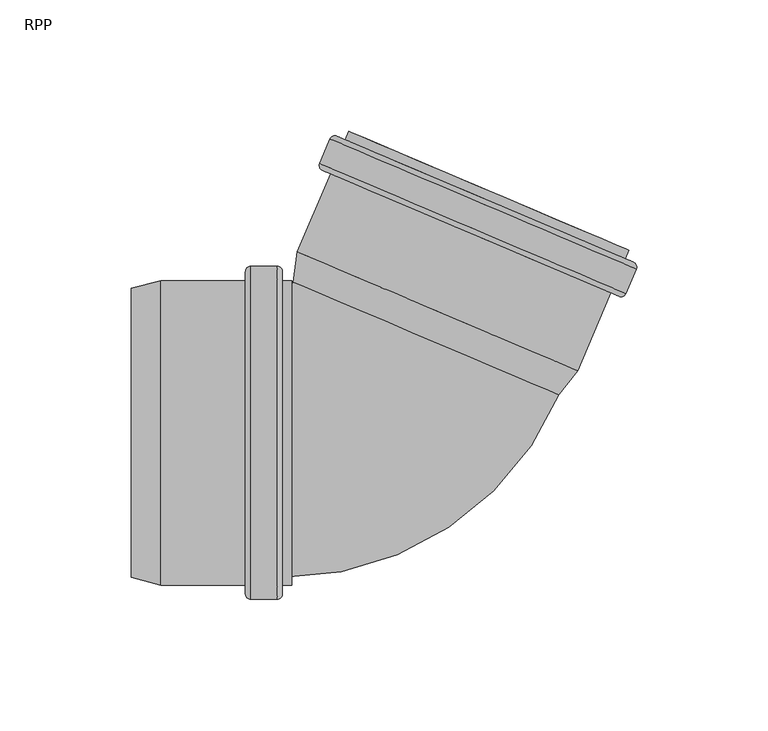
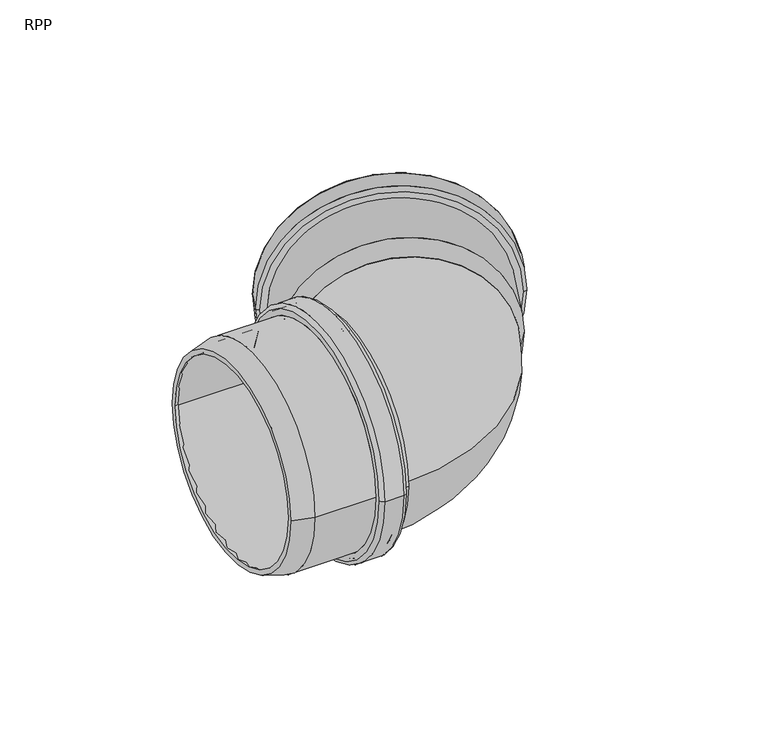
"""IFC4 building model written with IfcOpenShell, lengths in millimetres: pipe fitting geometry, RAUPIANO PLUS Bend : RPP."""

from ifc_helpers import new_model, si_unit, point, frame, origin, place, context, project, spatial, polyline, circle_curve, ellipse_curve, trimmed, source, transform, mapped, element, save
from ifc_brep_helpers import plane_surface, cylinder_surface, revolved_surface, advanced_brep


def rpp_37d01bf3(model_context):
    return source(origin(), model_context, "Body", "AdvancedBrep", [
        advanced_brep(
        [(-50.8512481, -55.3, 0.0), (-50.8512481, 55.3, 0.0), (-85.4996339, 55.3, 0.0), (-85.4996339, -55.3, 0.0), (-50.3512481, -60.7, 0.0), (-50.3512481, 60.7, 0.0), (-50.8512481, 60.2, 0.0), (-50.8512481, -60.2, 0.0), (-42.6512481, -60.7, 0.0), (-42.6512481, 60.7, 0.0), (-42.1512481, -60.2, 0.0), (-42.1512481, 60.2, 0.0), (-35.9512481, -55.3, 0.0), (-35.9512481, 55.3, 0.0), (-42.1512481, 55.3, 0.0), (-42.1512481, -55.3, 0.0), (-39.4512481, -58.0, 0.0), (-39.4512481, 58.0, 0.0), (-35.9512481, 58.0, 0.0), (-35.9512481, -58.0, 0.0), (-41.4512481, -63.4, 0.0), (-41.4512481, 63.4, 0.0), (-39.4512481, 61.4, 0.0), (-39.4512481, -61.4, 0.0), (-51.5512481, -63.4, 0.0), (-51.5512481, 63.4, 0.0), (-53.5512481, -61.4, 0.0), (-53.5512481, 61.4, 0.0), (-85.8550957, -58.0, 0.0), (-85.8550957, 58.0, 0.0), (-53.5512481, 58.0, 0.0), (-53.5512481, -58.0, 0.0), (-97.0512481, -55.0, 0.0), (-97.0512481, 55.0, 0.0), (-97.0512481, 52.2047543, 0.0), (-97.0512481, -52.2047543, 0.0)],
        [
            (0, 1, circle_curve(frame((-50.8512481, 0.0, 0.0), z_axis=(1.0, 0.0, 0.0), x_axis=(0.0, 1.0, 0.0)), 55.3)),
            (1, 2),
            (2, 3, circle_curve(frame((-85.4996339, 0.0, 0.0), z_axis=(-1.0, 0.0, 0.0), x_axis=(0.0, 1.0, 0.0)), 55.3)),
            (3, 0),
            (4, 5, circle_curve(frame((-50.3512481, 0.0, 0.0), z_axis=(1.0, 0.0, 0.0), x_axis=(0.0, 1.0, 0.0)), 60.7)),
            (5, 6, circle_curve(frame((-50.3512481, 60.2, 0.0), z_axis=(0.0, 0.0, 1.0), x_axis=(0.0, -1.0, 0.0)), 0.5)),
            (6, 7, circle_curve(frame((-50.8512481, 0.0, 0.0), z_axis=(-1.0, 0.0, 0.0), x_axis=(0.0, 1.0, 0.0)), 60.2)),
            (7, 4, circle_curve(frame((-50.3512481, -60.2, 0.0), z_axis=(0.0, 0.0, 1.0), x_axis=(0.0, 1.0, 0.0)), 0.5)),
            (8, 9, circle_curve(frame((-42.6512481, 0.0, 0.0), z_axis=(1.0, 0.0, 0.0), x_axis=(0.0, 1.0, 0.0)), 60.7)),
            (9, 5),
            (4, 8),
            (10, 11, circle_curve(frame((-42.1512481, 0.0, 0.0), z_axis=(1.0, 0.0, 0.0), x_axis=(0.0, 1.0, 0.0)), 60.2)),
            (11, 9, circle_curve(frame((-42.6512481, 60.2, 0.0), z_axis=(0.0, 0.0, 1.0), x_axis=(0.0, -1.0, 0.0)), 0.5)),
            (8, 10, circle_curve(frame((-42.6512481, -60.2, 0.0), z_axis=(0.0, 0.0, 1.0), x_axis=(0.0, 1.0, 0.0)), 0.5)),
            (12, 13, circle_curve(frame((-35.9512481, 0.0, 0.0), z_axis=(1.0, 0.0, 0.0), x_axis=(0.0, 1.0, 0.0)), 55.3)),
            (13, 14),
            (14, 15, circle_curve(frame((-42.1512481, 0.0, 0.0), z_axis=(-1.0, 0.0, 0.0), x_axis=(0.0, 1.0, 0.0)), 55.3)),
            (15, 12),
            (16, 17, circle_curve(frame((-39.4512481, 0.0, 0.0), z_axis=(1.0, 0.0, 0.0), x_axis=(0.0, 1.0, 0.0)), 58.0)),
            (17, 18),
            (18, 19, circle_curve(frame((-35.9512481, 0.0, 0.0), z_axis=(-1.0, 0.0, 0.0), x_axis=(0.0, 1.0, 0.0)), 58.0)),
            (19, 16),
            (20, 21, circle_curve(frame((-41.4512481, 0.0, 0.0), z_axis=(1.0, 0.0, 0.0), x_axis=(0.0, 1.0, 0.0)), 63.4)),
            (21, 22, circle_curve(frame((-41.4512481, 61.4, 0.0), z_axis=(0.0, 0.0, -1.0), x_axis=(0.0, -1.0, 0.0)), 2.0)),
            (22, 23, circle_curve(frame((-39.4512481, 0.0, 0.0), z_axis=(-1.0, 0.0, 0.0), x_axis=(0.0, 1.0, 0.0)), 61.4)),
            (23, 20, circle_curve(frame((-41.4512481, -61.4, 0.0), z_axis=(0.0, 0.0, -1.0), x_axis=(0.0, 1.0, 0.0)), 2.0)),
            (24, 25, circle_curve(frame((-51.5512481, 0.0, 0.0), z_axis=(1.0, 0.0, 0.0), x_axis=(0.0, 1.0, 0.0)), 63.4)),
            (25, 21),
            (20, 24),
            (26, 27, circle_curve(frame((-53.5512481, 0.0, 0.0), z_axis=(1.0, 0.0, 0.0), x_axis=(0.0, 1.0, 0.0)), 61.4)),
            (27, 25, circle_curve(frame((-51.5512481, 61.4, 0.0), z_axis=(0.0, 0.0, -1.0), x_axis=(0.0, -1.0, 0.0)), 2.0)),
            (24, 26, circle_curve(frame((-51.5512481, -61.4, 0.0), z_axis=(0.0, 0.0, -1.0), x_axis=(0.0, 1.0, 0.0)), 2.0)),
            (28, 29, circle_curve(frame((-85.8550957, 0.0, 0.0), z_axis=(1.0, 0.0, 0.0), x_axis=(0.0, 1.0, 0.0)), 58.0)),
            (29, 30),
            (30, 31, circle_curve(frame((-53.5512481, 0.0, 0.0), z_axis=(-1.0, 0.0, 0.0), x_axis=(0.0, 1.0, 0.0)), 58.0)),
            (31, 28),
            (32, 33, circle_curve(frame((-97.0512481, 0.0, 0.0), z_axis=(1.0, 0.0, 0.0), x_axis=(0.0, 1.0, 0.0)), 55.0)),
            (33, 29),
            (28, 32),
            (2, 34),
            (34, 35, circle_curve(frame((-97.0512481, 0.0, 0.0), z_axis=(-1.0, 0.0, 0.0), x_axis=(0.0, 1.0, 0.0)), 52.2047543)),
            (35, 3),
            (1, 0, circle_curve(frame((-50.8512481, 0.0, 0.0), z_axis=(1.0, 0.0, 0.0), x_axis=(0.0, -1.0, 0.0)), 55.3)),
            (3, 2, circle_curve(frame((-85.4996339, 0.0, 0.0), z_axis=(-1.0, 0.0, 0.0), x_axis=(0.0, -1.0, 0.0)), 55.3)),
            (6, 7, circle_curve(frame((-50.8512481, 0.0, 0.0), z_axis=(1.0, 0.0, 0.0), x_axis=(0.0, -1.0, 0.0)), 60.2)),
            (5, 4, circle_curve(frame((-50.3512481, 0.0, 0.0), z_axis=(1.0, 0.0, 0.0), x_axis=(0.0, -1.0, 0.0)), 60.7)),
            (9, 8, circle_curve(frame((-42.6512481, 0.0, 0.0), z_axis=(1.0, 0.0, 0.0), x_axis=(0.0, -1.0, 0.0)), 60.7)),
            (11, 10, circle_curve(frame((-42.1512481, 0.0, 0.0), z_axis=(1.0, 0.0, 0.0), x_axis=(0.0, -1.0, 0.0)), 60.2)),
            (14, 15, circle_curve(frame((-42.1512481, 0.0, 0.0), z_axis=(1.0, 0.0, 0.0), x_axis=(0.0, -1.0, 0.0)), 55.3)),
            (13, 12, circle_curve(frame((-35.9512481, 0.0, 0.0), z_axis=(1.0, 0.0, 0.0), x_axis=(0.0, -1.0, 0.0)), 55.3)),
            (18, 19, circle_curve(frame((-35.9512481, 0.0, 0.0), z_axis=(1.0, 0.0, 0.0), x_axis=(0.0, -1.0, 0.0)), 58.0)),
            (17, 16, circle_curve(frame((-39.4512481, 0.0, 0.0), z_axis=(1.0, 0.0, 0.0), x_axis=(0.0, -1.0, 0.0)), 58.0)),
            (22, 23, circle_curve(frame((-39.4512481, 0.0, 0.0), z_axis=(1.0, 0.0, 0.0), x_axis=(0.0, -1.0, 0.0)), 61.4)),
            (21, 20, circle_curve(frame((-41.4512481, 0.0, 0.0), z_axis=(1.0, 0.0, 0.0), x_axis=(0.0, -1.0, 0.0)), 63.4)),
            (25, 24, circle_curve(frame((-51.5512481, 0.0, 0.0), z_axis=(1.0, 0.0, 0.0), x_axis=(0.0, -1.0, 0.0)), 63.4)),
            (27, 26, circle_curve(frame((-53.5512481, 0.0, 0.0), z_axis=(1.0, 0.0, 0.0), x_axis=(0.0, -1.0, 0.0)), 61.4)),
            (30, 31, circle_curve(frame((-53.5512481, 0.0, 0.0), z_axis=(1.0, 0.0, 0.0), x_axis=(0.0, -1.0, 0.0)), 58.0)),
            (29, 28, circle_curve(frame((-85.8550957, 0.0, 0.0), z_axis=(1.0, 0.0, 0.0), x_axis=(0.0, -1.0, 0.0)), 58.0)),
            (33, 32, circle_curve(frame((-97.0512481, 0.0, 0.0), z_axis=(1.0, 0.0, 0.0), x_axis=(0.0, -1.0, 0.0)), 55.0)),
            (34, 35, circle_curve(frame((-97.0512481, 0.0, 0.0), z_axis=(1.0, 0.0, 0.0), x_axis=(0.0, -1.0, 0.0)), 52.2047543)),
        ],
        [
            revolved_surface(polyline([(-85.4996339, 55.3, 0.0), (-50.8512481, 55.3, 0.0)]), (-97.0512481, 0.0, 0.0), (-1.0, 0.0, 0.0)),
            revolved_surface(trimmed(ellipse_curve(frame((-50.3512481, 60.2, 0.0), z_axis=(0.0, 0.0, -1.0), x_axis=(0.0, -1.0, 0.0)), 0.5, 0.5), [point((-50.8512481, 60.2, 0.0))], [point((-50.3512481, 60.7, 0.0))], True, "CARTESIAN"), (-97.0512481, 0.0, 0.0), (-1.0, 0.0, 0.0)),
            revolved_surface(polyline([(-50.3512481, 60.7, 0.0), (-42.6512481, 60.7, 0.0)]), (-97.0512481, 0.0, 0.0), (-1.0, 0.0, 0.0)),
            revolved_surface(trimmed(ellipse_curve(frame((-42.6512481, 60.2, 0.0), z_axis=(0.0, 0.0, -1.0), x_axis=(0.0, -1.0, 0.0)), 0.5, 0.5), [point((-42.6512481, 60.7, 0.0))], [point((-42.1512481, 60.2, 0.0))], True, "CARTESIAN"), (-97.0512481, 0.0, 0.0), (-1.0, 0.0, 0.0)),
            revolved_surface(polyline([(-42.1512481, 55.3, 0.0), (-35.9512481, 55.3, 0.0)]), (-97.0512481, 0.0, 0.0), (-1.0, 0.0, 0.0)),
            cylinder_surface(frame((-97.0512481, 0.0, 0.0), z_axis=(-1.0, 0.0, 0.0), x_axis=(0.0, 1.0, 0.0)), 58.0),
            revolved_surface(trimmed(ellipse_curve(frame((-41.4512481, 61.4, 0.0), z_axis=(0.0, 0.0, 1.0), x_axis=(0.0, -1.0, 0.0)), 2.0, 2.0), [point((-39.4512481, 61.4, 0.0))], [point((-41.4512481, 63.4, 0.0))], True, "CARTESIAN"), (-97.0512481, 0.0, 0.0), (-1.0, 0.0, 0.0)),
            cylinder_surface(frame((-97.0512481, 0.0, 0.0), z_axis=(-1.0, 0.0, 0.0), x_axis=(0.0, 1.0, 0.0)), 63.4),
            revolved_surface(trimmed(ellipse_curve(frame((-51.5512481, 61.4, 0.0), z_axis=(0.0, 0.0, 1.0), x_axis=(0.0, -1.0, 0.0)), 2.0, 2.0), [point((-51.5512481, 63.4, 0.0))], [point((-53.5512481, 61.4, 0.0))], True, "CARTESIAN"), (-97.0512481, 0.0, 0.0), (-1.0, 0.0, 0.0)),
            revolved_surface(polyline([(-85.8550957, 58.0, 0.0), (-97.0512481, 55.0, 0.0)]), (-97.0512481, 0.0, 0.0), (-1.0, 0.0, 0.0)),
            revolved_surface(polyline([(-97.0512481, 52.2047543, 0.0), (-85.4996339, 55.3, 0.0)]), (-97.0512481, 0.0, 0.0), (-1.0, 0.0, 0.0)),
            revolved_surface(polyline([(-85.4996339, -55.3, 0.0), (-50.8512481, -55.3, 0.0)]), (-97.0512481, 0.0, 0.0), (-1.0, 0.0, 0.0)),
            plane_surface(frame((-50.8512481, 0.0, 0.0), z_axis=(1.0, 0.0, 0.0), x_axis=(0.0, -1.0, 0.0))),
            revolved_surface(trimmed(ellipse_curve(frame((-50.3512481, -60.2, 0.0), z_axis=(0.0, 0.0, 1.0), x_axis=(0.0, 1.0, 0.0)), 0.5, 0.5), [point((-50.8512481, -60.2, 0.0))], [point((-50.3512481, -60.7, 0.0))], True, "CARTESIAN"), (-97.0512481, 0.0, 0.0), (-1.0, 0.0, 0.0)),
            revolved_surface(polyline([(-50.3512481, -60.7, 0.0), (-42.6512481, -60.7, 0.0)]), (-97.0512481, 0.0, 0.0), (-1.0, 0.0, 0.0)),
            revolved_surface(trimmed(ellipse_curve(frame((-42.6512481, -60.2, 0.0), z_axis=(0.0, 0.0, 1.0), x_axis=(0.0, 1.0, 0.0)), 0.5, 0.5), [point((-42.6512481, -60.7, 0.0))], [point((-42.1512481, -60.2, 0.0))], True, "CARTESIAN"), (-97.0512481, 0.0, 0.0), (-1.0, 0.0, 0.0)),
            plane_surface(frame((-42.1512481, 0.0, 0.0), z_axis=(-1.0, 0.0, 0.0), x_axis=(0.0, -1.0, 0.0))),
            revolved_surface(polyline([(-42.1512481, -55.3, 0.0), (-35.9512481, -55.3, 0.0)]), (-97.0512481, 0.0, 0.0), (-1.0, 0.0, 0.0)),
            plane_surface(frame((-35.9512481, 0.0, 0.0), z_axis=(1.0, 0.0, 0.0), x_axis=(0.0, -1.0, 0.0))),
            cylinder_surface(frame((-97.0512481, 0.0, 0.0), z_axis=(-1.0, 0.0, 0.0), x_axis=(0.0, -1.0, 0.0)), 58.0),
            plane_surface(frame((-39.4512481, 0.0, 0.0), z_axis=(1.0, 0.0, 0.0), x_axis=(0.0, -1.0, 0.0))),
            revolved_surface(trimmed(ellipse_curve(frame((-41.4512481, -61.4, 0.0), z_axis=(0.0, 0.0, -1.0), x_axis=(0.0, 1.0, 0.0)), 2.0, 2.0), [point((-39.4512481, -61.4, 0.0))], [point((-41.4512481, -63.4, 0.0))], True, "CARTESIAN"), (-97.0512481, 0.0, 0.0), (-1.0, 0.0, 0.0)),
            cylinder_surface(frame((-97.0512481, 0.0, 0.0), z_axis=(-1.0, 0.0, 0.0), x_axis=(0.0, -1.0, 0.0)), 63.4),
            revolved_surface(trimmed(ellipse_curve(frame((-51.5512481, -61.4, 0.0), z_axis=(0.0, 0.0, -1.0), x_axis=(0.0, 1.0, 0.0)), 2.0, 2.0), [point((-51.5512481, -63.4, 0.0))], [point((-53.5512481, -61.4, 0.0))], True, "CARTESIAN"), (-97.0512481, 0.0, 0.0), (-1.0, 0.0, 0.0)),
            plane_surface(frame((-53.5512481, 0.0, 0.0), z_axis=(-1.0, 0.0, 0.0), x_axis=(0.0, -1.0, 0.0))),
            revolved_surface(polyline([(-85.8550957, -58.0, 0.0), (-97.0512481, -55.0, 0.0)]), (-97.0512481, 0.0, 0.0), (-1.0, 0.0, 0.0)),
            plane_surface(frame((-97.0512481, 0.0, 0.0), z_axis=(-1.0, 0.0, 0.0), x_axis=(0.0, -1.0, 0.0))),
            revolved_surface(polyline([(-97.0512481, -52.2047543, 0.0), (-85.4996339, -55.3, 0.0)]), (-97.0512481, 0.0, 0.0), (-1.0, 0.0, 0.0)),
        ],
        [
            (0, [[1, 2, 3, 4]]),
            (1, [[5, 6, 7, 8]]),
            (2, [[9, 10, -5, 11]]),
            (3, [[12, 13, -9, 14]]),
            (4, [[15, 16, 17, 18]]),
            (5, [[19, 20, 21, 22]]),
            (6, [[23, 24, 25, 26]]),
            (7, [[27, 28, -23, 29]]),
            (8, [[30, 31, -27, 32]]),
            (5, [[33, 34, 35, 36]]),
            (9, [[37, 38, -33, 39]]),
            (10, [[-3, 40, 41, 42]]),
            (11, [[43, -4, 44, -2]]),
            (12, [[45, -7], [-43, -1]]),
            (13, [[46, -8, -45, -6]]),
            (14, [[47, -11, -46, -10]]),
            (15, [[48, -14, -47, -13]]),
            (16, [[-48, -12], [49, -17]]),
            (17, [[50, -18, -49, -16]]),
            (18, [[51, -21], [-50, -15]]),
            (19, [[52, -22, -51, -20]]),
            (20, [[53, -25], [-52, -19]]),
            (21, [[54, -26, -53, -24]]),
            (22, [[55, -29, -54, -28]]),
            (23, [[56, -32, -55, -31]]),
            (24, [[-56, -30], [57, -35]]),
            (19, [[58, -36, -57, -34]]),
            (25, [[59, -39, -58, -38]]),
            (26, [[-59, -37], [60, -41]]),
            (27, [[-44, -42, -60, -40]]),
        ],
    ),
        advanced_brep(
        [(63.313268, 15.5488409, 0.0), (-32.7961915, 56.344886, 0.0), (-31.1318049, 68.1876117, 0.0), (70.6760319, 24.9727489, 0.0), (73.022505, 23.5905706, 0.0), (-33.756058, 68.9153815, 0.0), (-35.3692287, 57.4370755, 0.0), (65.8863052, 14.4566514, 0.0), (85.6446238, 53.3264191, 0.0), (-21.1339392, 98.65123, 0.0), (95.3431967, 62.3545797, 0.0), (-21.3768187, 111.8992868, 0.0), (-25.3232031, 102.6021878, 0.0), (91.3968123, 53.0574807, 0.0), (92.5214917, 69.5273045, 0.0), (-14.2570713, 114.8521154, 0.0), (-15.6246303, 111.6303484, 0.0), (91.1539327, 66.3055375, 0.0), (87.6135956, 64.8751485, 0.0), (-14.1942412, 108.0900113, 0.0), (-11.7717082, 113.7971414, 0.0), (90.0361286, 70.5822786, 0.0), (89.3803265, 55.2170606, 0.0), (-22.3689627, 102.6518196, 0.0), (-19.360333, 109.7397069, 0.0), (92.3889562, 62.3049479, 0.0), (-17.593602, 100.0816191, 0.0), (84.2142348, 56.8667562, 0.0), (-24.2636557, 99.9797158, 0.0), (88.7743403, 51.9979333, 0.0), (94.2836492, 64.9770517, 0.0), (-18.7543468, 112.9588343, 0.0), (-18.704715, 110.0045938, 0.0), (92.1240694, 62.9605659, 0.0), (88.7247086, 54.9521737, 0.0), (-22.1040758, 101.9962016, 0.0)],
        [
            (0, 1, circle_curve(frame((15.2585382, 35.9468634, 0.0), z_axis=(-0.39073112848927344, -0.9205048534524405, 0.0), x_axis=(-0.9205048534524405, 0.39073112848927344, 0.0)), 52.2047543)),
            (1, 2),
            (2, 3, circle_curve(frame((19.7721135, 46.5801803, 0.0), z_axis=(0.39073112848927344, 0.9205048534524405, 0.0), x_axis=(-0.9205048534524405, 0.39073112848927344, 0.0)), 55.3)),
            (3, 0),
            (4, 5, circle_curve(frame((19.6332235, 46.2529761, 0.0), z_axis=(-0.39073112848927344, -0.9205048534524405, 0.0), x_axis=(-0.9205048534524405, 0.39073112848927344, 0.0)), 58.0)),
            (5, 6),
            (6, 7, circle_curve(frame((15.2585382, 35.9468634, 0.0), z_axis=(0.39073112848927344, 0.9205048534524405, 0.0), x_axis=(-0.9205048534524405, 0.39073112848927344, 0.0)), 55.0)),
            (7, 4),
            (8, 9, circle_curve(frame((32.2553423, 75.9888245, 0.0), z_axis=(-0.39073112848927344, -0.9205048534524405, 0.0), x_axis=(-0.9205048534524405, 0.39073112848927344, 0.0)), 58.0)),
            (9, 5),
            (4, 8),
            (10, 11, circle_curve(frame((36.983189, 87.1269333, 0.0), z_axis=(-0.39073112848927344, -0.9205048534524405, 0.0), x_axis=(-0.9205048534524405, 0.39073112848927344, 0.0)), 63.4)),
            (11, 12),
            (12, 13, circle_curve(frame((33.0368046, 77.8298343, 0.0), z_axis=(0.39073112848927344, 0.9205048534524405, 0.0), x_axis=(-0.9205048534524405, 0.39073112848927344, 0.0)), 63.4)),
            (13, 10),
            (14, 15, circle_curve(frame((39.1322102, 92.18971, 0.0), z_axis=(-0.39073112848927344, -0.9205048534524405, 0.0), x_axis=(-0.9205048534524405, 0.39073112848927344, 0.0)), 58.0)),
            (15, 16),
            (16, 17, circle_curve(frame((37.7646512, 88.967943, 0.0), z_axis=(0.39073112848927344, 0.9205048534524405, 0.0), x_axis=(-0.9205048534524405, 0.39073112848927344, 0.0)), 58.0)),
            (17, 14),
            (18, 19, circle_curve(frame((36.7096772, 86.4825799, 0.0), z_axis=(-0.39073112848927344, -0.9205048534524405, 0.0), x_axis=(-0.9205048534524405, 0.39073112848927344, 0.0)), 55.3)),
            (19, 20),
            (20, 21, circle_curve(frame((39.1322102, 92.18971, 0.0), z_axis=(0.39073112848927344, 0.9205048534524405, 0.0), x_axis=(-0.9205048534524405, 0.39073112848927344, 0.0)), 55.3)),
            (21, 18),
            (22, 23, circle_curve(frame((33.5056819, 78.9344401, 0.0), z_axis=(-0.39073112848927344, -0.9205048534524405, 0.0), x_axis=(-0.9205048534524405, 0.39073112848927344, 0.0)), 60.7)),
            (23, 24),
            (24, 25, circle_curve(frame((36.5143116, 86.0223274, 0.0), z_axis=(0.39073112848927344, 0.9205048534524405, 0.0), x_axis=(-0.9205048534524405, 0.39073112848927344, 0.0)), 60.7)),
            (25, 22),
            (2, 26),
            (26, 27, circle_curve(frame((33.3103164, 78.4741876, 0.0), z_axis=(0.39073112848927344, 0.9205048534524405, 0.0), x_axis=(-0.9205048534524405, 0.39073112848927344, 0.0)), 55.3)),
            (27, 3),
            (1, 0, circle_curve(frame((15.2585382, 35.9468634, 0.0), z_axis=(-0.39073112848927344, -0.9205048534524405, 0.0), x_axis=(0.9205048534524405, -0.39073112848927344, 0.0)), 52.2047543)),
            (3, 2, circle_curve(frame((19.7721135, 46.5801803, 0.0), z_axis=(0.39073112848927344, 0.9205048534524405, 0.0), x_axis=(0.9205048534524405, -0.39073112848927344, 0.0)), 55.3)),
            (6, 7, circle_curve(frame((15.2585382, 35.9468634, 0.0), z_axis=(-0.39073112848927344, -0.9205048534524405, 0.0), x_axis=(0.9205048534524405, -0.39073112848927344, 0.0)), 55.0)),
            (5, 4, circle_curve(frame((19.6332235, 46.2529761, 0.0), z_axis=(-0.39073112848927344, -0.9205048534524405, 0.0), x_axis=(0.9205048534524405, -0.39073112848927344, 0.0)), 58.0)),
            (9, 8, circle_curve(frame((32.2553423, 75.9888245, 0.0), z_axis=(-0.39073112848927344, -0.9205048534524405, 0.0), x_axis=(0.9205048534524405, -0.39073112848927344, 0.0)), 58.0)),
            (28, 29, circle_curve(frame((32.2553423, 75.9888245, 0.0), z_axis=(-0.39073112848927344, -0.9205048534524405, 0.0), x_axis=(0.9205048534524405, -0.39073112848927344, 0.0)), 61.4)),
            (29, 28, circle_curve(frame((32.2553423, 75.9888245, 0.0), z_axis=(-0.39073112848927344, -0.9205048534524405, 0.0), x_axis=(-0.9205048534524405, 0.39073112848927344, 0.0)), 61.4)),
            (11, 10, circle_curve(frame((36.983189, 87.1269333, 0.0), z_axis=(-0.39073112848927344, -0.9205048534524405, 0.0), x_axis=(0.9205048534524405, -0.39073112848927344, 0.0)), 63.4)),
            (13, 12, circle_curve(frame((33.0368046, 77.8298343, 0.0), z_axis=(0.39073112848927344, 0.9205048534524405, 0.0), x_axis=(0.9205048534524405, -0.39073112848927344, 0.0)), 63.4)),
            (30, 31, circle_curve(frame((37.7646512, 88.967943, 0.0), z_axis=(0.39073112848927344, 0.9205048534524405, 0.0), x_axis=(0.9205048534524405, -0.39073112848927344, 0.0)), 61.4)),
            (31, 30, circle_curve(frame((37.7646512, 88.967943, 0.0), z_axis=(0.39073112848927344, 0.9205048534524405, 0.0), x_axis=(-0.9205048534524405, 0.39073112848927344, 0.0)), 61.4)),
            (16, 17, circle_curve(frame((37.7646512, 88.967943, 0.0), z_axis=(-0.39073112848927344, -0.9205048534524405, 0.0), x_axis=(0.9205048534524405, -0.39073112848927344, 0.0)), 58.0)),
            (15, 14, circle_curve(frame((39.1322102, 92.18971, 0.0), z_axis=(-0.39073112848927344, -0.9205048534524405, 0.0), x_axis=(0.9205048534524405, -0.39073112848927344, 0.0)), 58.0)),
            (20, 21, circle_curve(frame((39.1322102, 92.18971, 0.0), z_axis=(-0.39073112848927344, -0.9205048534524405, 0.0), x_axis=(0.9205048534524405, -0.39073112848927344, 0.0)), 55.3)),
            (19, 18, circle_curve(frame((36.7096772, 86.4825799, 0.0), z_axis=(-0.39073112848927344, -0.9205048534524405, 0.0), x_axis=(0.9205048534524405, -0.39073112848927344, 0.0)), 55.3)),
            (32, 33, circle_curve(frame((36.7096772, 86.4825799, 0.0), z_axis=(-0.39073112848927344, -0.9205048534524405, 0.0), x_axis=(0.9205048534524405, -0.39073112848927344, 0.0)), 60.2)),
            (33, 32, circle_curve(frame((36.7096772, 86.4825799, 0.0), z_axis=(-0.39073112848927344, -0.9205048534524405, 0.0), x_axis=(-0.9205048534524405, 0.39073112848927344, 0.0)), 60.2)),
            (23, 22, circle_curve(frame((33.5056819, 78.9344401, 0.0), z_axis=(-0.39073112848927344, -0.9205048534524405, 0.0), x_axis=(0.9205048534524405, -0.39073112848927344, 0.0)), 60.7)),
            (25, 24, circle_curve(frame((36.5143116, 86.0223274, 0.0), z_axis=(0.39073112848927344, 0.9205048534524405, 0.0), x_axis=(0.9205048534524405, -0.39073112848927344, 0.0)), 60.7)),
            (34, 35, circle_curve(frame((33.3103164, 78.4741876, 0.0), z_axis=(0.39073112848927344, 0.9205048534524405, 0.0), x_axis=(0.9205048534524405, -0.39073112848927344, 0.0)), 60.2)),
            (35, 34, circle_curve(frame((33.3103164, 78.4741876, 0.0), z_axis=(0.39073112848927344, 0.9205048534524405, 0.0), x_axis=(-0.9205048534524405, 0.39073112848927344, 0.0)), 60.2)),
            (26, 27, circle_curve(frame((33.3103164, 78.4741876, 0.0), z_axis=(-0.39073112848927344, -0.9205048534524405, 0.0), x_axis=(0.9205048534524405, -0.39073112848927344, 0.0)), 55.3)),
            (12, 28, circle_curve(frame((-23.4821934, 101.8207255, 0.0), z_axis=(0.0, 0.0, 1.0), x_axis=(0.9205048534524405, -0.39073112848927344, 0.0)), 2.0)),
            (29, 13, circle_curve(frame((89.5558026, 53.838943, 0.0), z_axis=(0.0, 0.0, 1.0), x_axis=(-0.9205048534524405, 0.39073112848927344, 0.0)), 2.0)),
            (31, 11, circle_curve(frame((-19.535809, 111.1178246, 0.0), z_axis=(0.0, 0.0, 1.0), x_axis=(0.9205048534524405, -0.39073112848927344, 0.0)), 2.0)),
            (10, 30, circle_curve(frame((93.502187, 63.136042, 0.0), z_axis=(0.0, 0.0, 1.0), x_axis=(-0.9205048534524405, 0.39073112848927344, 0.0)), 2.0)),
            (24, 32, circle_curve(frame((-18.9000805, 109.5443414, 0.0), z_axis=(0.0, 0.0, -1.0), x_axis=(0.9205048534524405, -0.39073112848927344, 0.0)), 0.5)),
            (33, 25, circle_curve(frame((91.9287038, 62.5003135, 0.0), z_axis=(0.0, 0.0, -1.0), x_axis=(-0.9205048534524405, 0.39073112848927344, 0.0)), 0.5)),
            (35, 23, circle_curve(frame((-21.9087102, 102.456454, 0.0), z_axis=(0.0, 0.0, -1.0), x_axis=(0.9205048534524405, -0.39073112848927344, 0.0)), 0.5)),
            (22, 34, circle_curve(frame((88.9200741, 55.4124261, 0.0), z_axis=(0.0, 0.0, -1.0), x_axis=(-0.9205048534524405, 0.39073112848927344, 0.0)), 0.5)),
        ],
        [
            revolved_surface(polyline([(-31.1318049, 68.1876117, 0.0), (-32.7961915, 56.344886, 0.0)]), (15.2585382, 35.9468634, 0.0), (0.39073112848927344, 0.9205048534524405, 0.0)),
            revolved_surface(polyline([(-35.3692287, 57.4370755, 0.0), (-33.756058, 68.9153815, 0.0)]), (15.2585382, 35.9468634, 0.0), (0.39073112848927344, 0.9205048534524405, 0.0)),
            cylinder_surface(frame((15.2585382, 35.9468634, 0.0), z_axis=(0.39073112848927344, 0.9205048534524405, 0.0), x_axis=(-0.9205048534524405, 0.39073112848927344, 0.0)), 58.0),
            cylinder_surface(frame((15.2585382, 35.9468634, 0.0), z_axis=(0.39073112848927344, 0.9205048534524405, 0.0), x_axis=(-0.9205048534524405, 0.39073112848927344, 0.0)), 63.4),
            revolved_surface(polyline([(-11.77170821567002, 113.79714142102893, 0.0), (-14.19424122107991, 108.09001130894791, 0.0)]), (15.2585382, 35.9468634, 0.0), (0.39073112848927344, 0.9205048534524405, 0.0)),
            revolved_surface(polyline([(-19.360333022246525, 109.7397069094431, 0.0), (-22.36896268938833, 102.65181959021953, 0.0)]), (15.2585382, 35.9468634, 0.0), (0.39073112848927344, 0.9205048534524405, 0.0)),
            revolved_surface(polyline([(-17.59360202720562, 100.0816191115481, 0.0), (-31.1318049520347, 68.18761172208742, 0.0)]), (15.2585382, 35.9468634, 0.0), (0.39073112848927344, 0.9205048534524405, 0.0)),
            revolved_surface(polyline([(70.6760319, 24.9727489, 0.0), (63.313268, 15.5488409, 0.0)]), (15.2585382, 35.9468634, 0.0), (0.39073112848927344, 0.9205048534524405, 0.0)),
            plane_surface(frame((15.2585382, 35.9468634, 0.0), z_axis=(-0.39073112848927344, -0.9205048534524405, 0.0), x_axis=(0.9205048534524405, -0.39073112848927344, 0.0))),
            revolved_surface(polyline([(65.8863052, 14.4566514, 0.0), (73.022505, 23.5905706, 0.0)]), (15.2585382, 35.9468634, 0.0), (0.39073112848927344, 0.9205048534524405, 0.0)),
            cylinder_surface(frame((15.2585382, 35.9468634, 0.0), z_axis=(0.39073112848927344, 0.9205048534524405, 0.0), x_axis=(0.9205048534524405, -0.39073112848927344, 0.0)), 58.0),
            plane_surface(frame((32.2553423, 75.9888245, 0.0), z_axis=(-0.39073112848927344, -0.9205048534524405, 0.0), x_axis=(0.9205048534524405, -0.39073112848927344, 0.0))),
            cylinder_surface(frame((15.2585382, 35.9468634, 0.0), z_axis=(0.39073112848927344, 0.9205048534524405, 0.0), x_axis=(0.9205048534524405, -0.39073112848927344, 0.0)), 63.4),
            plane_surface(frame((37.7646512, 88.967943, 0.0), z_axis=(0.39073112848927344, 0.9205048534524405, 0.0), x_axis=(0.9205048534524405, -0.39073112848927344, 0.0))),
            plane_surface(frame((39.1322102, 92.18971, 0.0), z_axis=(0.39073112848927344, 0.9205048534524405, 0.0), x_axis=(0.9205048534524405, -0.39073112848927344, 0.0))),
            revolved_surface(polyline([(90.0361285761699, 70.58227861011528, 0.0), (87.61359557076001, 64.87514849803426, 0.0)]), (15.2585382, 35.9468634, 0.0), (0.39073112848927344, 0.9205048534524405, 0.0)),
            plane_surface(frame((36.7096772, 86.4825799, 0.0), z_axis=(-0.39073112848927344, -0.9205048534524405, 0.0), x_axis=(0.9205048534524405, -0.39073112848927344, 0.0))),
            revolved_surface(polyline([(92.38895618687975, 62.3049479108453, 0.0), (89.38032651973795, 55.21706059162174, 0.0)]), (15.2585382, 35.9468634, 0.0), (0.39073112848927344, 0.9205048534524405, 0.0)),
            plane_surface(frame((33.3103164, 78.4741876, 0.0), z_axis=(0.39073112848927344, 0.9205048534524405, 0.0), x_axis=(0.9205048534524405, -0.39073112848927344, 0.0))),
            revolved_surface(polyline([(84.2142347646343, 56.866756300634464, 0.0), (70.67603183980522, 24.972748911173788, 0.0)]), (15.2585382, 35.9468634, 0.0), (0.39073112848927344, 0.9205048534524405, 0.0)),
            revolved_surface(trimmed(ellipse_curve(frame((-23.4821934, 101.8207255, 0.0), z_axis=(0.0, 0.0, -1.0), x_axis=(0.9205048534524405, -0.39073112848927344, 0.0)), 2.0, 2.0), [point((-24.2636557, 99.9797158, 0.0))], [point((-25.3232031, 102.6021878, 0.0))], True, "CARTESIAN"), (15.2585382, 35.9468634, 0.0), (0.39073112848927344, 0.9205048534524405, 0.0)),
            revolved_surface(trimmed(ellipse_curve(frame((-19.535809, 111.1178246, 0.0), z_axis=(0.0, 0.0, -1.0), x_axis=(0.9205048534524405, -0.39073112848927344, 0.0)), 2.0, 2.0), [point((-21.3768187, 111.8992868, 0.0))], [point((-18.7543468, 112.9588343, 0.0))], True, "CARTESIAN"), (15.2585382, 35.9468634, 0.0), (0.39073112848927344, 0.9205048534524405, 0.0)),
            revolved_surface(trimmed(ellipse_curve(frame((-18.9000805, 109.5443414, 0.0), z_axis=(0.0, 0.0, 1.0), x_axis=(0.9205048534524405, -0.39073112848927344, 0.0)), 0.5, 0.5), [point((-18.704715, 110.0045938, 0.0))], [point((-19.360333, 109.7397069, 0.0))], True, "CARTESIAN"), (15.2585382, 35.9468634, 0.0), (0.39073112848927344, 0.9205048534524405, 0.0)),
            revolved_surface(trimmed(ellipse_curve(frame((-21.9087102, 102.456454, 0.0), z_axis=(0.0, 0.0, 1.0), x_axis=(0.9205048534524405, -0.39073112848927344, 0.0)), 0.5, 0.5), [point((-22.3689627, 102.6518196, 0.0))], [point((-22.1040758, 101.9962016, 0.0))], True, "CARTESIAN"), (15.2585382, 35.9468634, 0.0), (0.39073112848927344, 0.9205048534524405, 0.0)),
            revolved_surface(trimmed(ellipse_curve(frame((89.5558026, 53.838943, 0.0), z_axis=(0.0, 0.0, 1.0), x_axis=(-0.9205048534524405, 0.3907311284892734, 0.0)), 2.0, 2.0), [point((88.7743403, 51.9979333, 0.0))], [point((91.3968123, 53.0574807, 0.0))], True, "CARTESIAN"), (15.2585382, 35.9468634, 0.0), (0.39073112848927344, 0.9205048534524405, 0.0)),
            revolved_surface(trimmed(ellipse_curve(frame((93.502187, 63.136042, 0.0), z_axis=(0.0, 0.0, 1.0), x_axis=(-0.9205048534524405, 0.3907311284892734, 0.0)), 2.0, 2.0), [point((95.3431967, 62.3545797, 0.0))], [point((94.2836492, 64.9770517, 0.0))], True, "CARTESIAN"), (15.2585382, 35.9468634, 0.0), (0.39073112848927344, 0.9205048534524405, 0.0)),
            revolved_surface(trimmed(ellipse_curve(frame((91.9287038, 62.5003135, 0.0), z_axis=(0.0, 0.0, -1.0), x_axis=(-0.9205048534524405, 0.3907311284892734, 0.0)), 0.5, 0.5), [point((92.1240694, 62.9605659, 0.0))], [point((92.3889562, 62.3049479, 0.0))], True, "CARTESIAN"), (15.2585382, 35.9468634, 0.0), (0.39073112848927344, 0.9205048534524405, 0.0)),
            revolved_surface(trimmed(ellipse_curve(frame((88.9200741, 55.4124261, 0.0), z_axis=(0.0, 0.0, -1.0), x_axis=(-0.9205048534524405, 0.3907311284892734, 0.0)), 0.5, 0.5), [point((89.3803265, 55.2170606, 0.0))], [point((88.7247086, 54.9521737, 0.0))], True, "CARTESIAN"), (15.2585382, 35.9468634, 0.0), (0.39073112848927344, 0.9205048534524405, 0.0)),
        ],
        [
            (0, [[1, 2, 3, 4]]),
            (1, [[5, 6, 7, 8]]),
            (2, [[9, 10, -5, 11]]),
            (3, [[12, 13, 14, 15]]),
            (2, [[16, 17, 18, 19]]),
            (4, [[20, 21, 22, 23]]),
            (5, [[24, 25, 26, 27]]),
            (6, [[-3, 28, 29, 30]]),
            (7, [[31, -4, 32, -2]]),
            (8, [[33, -7], [-31, -1]]),
            (9, [[34, -8, -33, -6]]),
            (10, [[35, -11, -34, -10]]),
            (11, [[36, 37], [-35, -9]]),
            (12, [[38, -15, 39, -13]]),
            (13, [[40, 41], [42, -18]]),
            (10, [[43, -19, -42, -17]]),
            (14, [[-43, -16], [44, -22]]),
            (15, [[45, -23, -44, -21]]),
            (16, [[46, 47], [-45, -20]]),
            (17, [[48, -27, 49, -25]]),
            (18, [[50, 51], [52, -29]]),
            (19, [[-32, -30, -52, -28]]),
            (20, [[-14, 53, -37, 54]]),
            (21, [[-41, 55, -12, 56]]),
            (22, [[-26, 57, -47, 58]]),
            (23, [[-51, 59, -24, 60]]),
            (24, [[-39, -54, -36, -53]]),
            (25, [[-40, -56, -38, -55]]),
            (26, [[-49, -58, -46, -57]]),
            (27, [[-50, -60, -48, -59]]),
        ],
    ),
        advanced_brep(
        [(-39.0512481, 52.3, 0.0), (-39.0512481, -52.3, 0.0), (-97.0512481, -52.3, 0.0), (-97.0512481, 52.3, 0.0), (-89.9603516, 55.0, 0.0), (-89.9603516, -55.0, 0.0), (-39.0512481, -55.0, 0.0), (-39.0512481, 55.0, 0.0), (-97.0512481, 53.1, 0.0), (-97.0512481, -53.1, 0.0)],
        [
            (0, 1, circle_curve(frame((-39.0512481, 0.0, 0.0), z_axis=(1.0, 0.0, 0.0), x_axis=(0.0, -1.0, 0.0)), 52.3)),
            (1, 2),
            (2, 3, circle_curve(frame((-97.0512481, 0.0, 0.0), z_axis=(-1.0, 0.0, 0.0), x_axis=(0.0, -1.0, 0.0)), 52.3)),
            (3, 0),
            (4, 5, circle_curve(frame((-89.9603516, 0.0, 0.0), z_axis=(1.0, 0.0, 0.0), x_axis=(0.0, -1.0, 0.0)), 55.0)),
            (5, 6),
            (6, 7, circle_curve(frame((-39.0512481, 0.0, 0.0), z_axis=(-1.0, 0.0, 0.0), x_axis=(0.0, -1.0, 0.0)), 55.0)),
            (7, 4),
            (8, 9, circle_curve(frame((-97.0512481, 0.0, 0.0), z_axis=(1.0, 0.0, 0.0), x_axis=(0.0, -1.0, 0.0)), 53.1)),
            (9, 5),
            (4, 8),
            (1, 0, circle_curve(frame((-39.0512481, 0.0, 0.0), z_axis=(1.0, 0.0, 0.0), x_axis=(0.0, 1.0, 0.0)), 52.3)),
            (3, 2, circle_curve(frame((-97.0512481, 0.0, 0.0), z_axis=(-1.0, 0.0, 0.0), x_axis=(0.0, 1.0, 0.0)), 52.3)),
            (6, 7, circle_curve(frame((-39.0512481, 0.0, 0.0), z_axis=(1.0, 0.0, 0.0), x_axis=(0.0, 1.0, 0.0)), 55.0)),
            (5, 4, circle_curve(frame((-89.9603516, 0.0, 0.0), z_axis=(1.0, 0.0, 0.0), x_axis=(0.0, 1.0, 0.0)), 55.0)),
            (9, 8, circle_curve(frame((-97.0512481, 0.0, 0.0), z_axis=(1.0, 0.0, 0.0), x_axis=(0.0, 1.0, 0.0)), 53.1)),
        ],
        [
            revolved_surface(polyline([(-97.0512481, -52.3, 0.0), (-39.0512481, -52.3, 0.0)]), (-39.0512481, 0.0, 0.0), (-1.0, 0.0, 0.0)),
            cylinder_surface(frame((-39.0512481, 0.0, 0.0), z_axis=(-1.0, 0.0, 0.0), x_axis=(0.0, -1.0, 0.0)), 55.0),
            revolved_surface(polyline([(-89.9603516, -55.0, 0.0), (-97.0512481, -53.1, 0.0)]), (-39.0512481, 0.0, 0.0), (-1.0, 0.0, 0.0)),
            revolved_surface(polyline([(-97.0512481, 52.3, 0.0), (-39.0512481, 52.3, 0.0)]), (-39.0512481, 0.0, 0.0), (-1.0, 0.0, 0.0)),
            plane_surface(frame((-39.0512481, 0.0, 0.0), z_axis=(1.0, 0.0, 0.0), x_axis=(0.0, 1.0, 0.0))),
            cylinder_surface(frame((-39.0512481, 0.0, 0.0), z_axis=(-1.0, 0.0, 0.0), x_axis=(0.0, 1.0, 0.0)), 55.0),
            revolved_surface(polyline([(-89.9603516, 55.0, 0.0), (-97.0512481, 53.1, 0.0)]), (-39.0512481, 0.0, 0.0), (-1.0, 0.0, 0.0)),
            plane_surface(frame((-97.0512481, 0.0, 0.0), z_axis=(-1.0, 0.0, 0.0), x_axis=(0.0, 1.0, 0.0))),
        ],
        [
            (0, [[1, 2, 3, 4]]),
            (1, [[5, 6, 7, 8]]),
            (2, [[9, 10, -5, 11]]),
            (3, [[12, -4, 13, -2]]),
            (4, [[14, -7], [-12, -1]]),
            (5, [[15, -8, -14, -6]]),
            (6, [[16, -11, -15, -10]]),
            (7, [[-16, -9], [-13, -3]]),
        ],
    ),
        advanced_brep(
        [(-39.0512481, -55.0, 0.0), (-39.0512481, 55.0, 0.0), (-39.0512481, -52.3, 0.0), (-39.0512481, 52.3, 0.0), (65.8863052, 14.4566514, 0.0), (-35.3692287, 57.4370755, 0.0), (63.4009421, 15.5116254, 0.0), (-32.8838656, 56.3821014, 0.0)],
        [
            (0, 1, circle_curve(frame((-39.0512481, 0.0, 0.0), z_axis=(-1.0, 0.0, 0.0), x_axis=(0.0, 1.0, 0.0)), 55.0)),
            (1, 0, circle_curve(frame((-39.0512481, 0.0, 0.0), z_axis=(-1.0, 0.0, 0.0), x_axis=(0.0, 1.0, 0.0)), 55.0)),
            (2, 3, circle_curve(frame((-39.0512481, 0.0, 0.0), z_axis=(1.0, 0.0, 0.0), x_axis=(0.0, 1.0, 0.0)), 52.3)),
            (3, 2, circle_curve(frame((-39.0512481, 0.0, 0.0), z_axis=(1.0, 0.0, 0.0), x_axis=(0.0, 1.0, 0.0)), 52.3)),
            (4, 5, circle_curve(frame((15.2585382, 35.9468634, 0.0), z_axis=(0.39073112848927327, 0.9205048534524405, 0.0), x_axis=(-0.9205048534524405, 0.39073112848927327, 0.0)), 55.0)),
            (5, 4, circle_curve(frame((15.2585382, 35.9468634, 0.0), z_axis=(0.39073112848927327, 0.9205048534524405, 0.0), x_axis=(-0.9205048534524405, 0.39073112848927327, 0.0)), 55.0)),
            (6, 7, circle_curve(frame((15.2585382, 35.9468634, 0.0), z_axis=(-0.39073112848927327, -0.9205048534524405, 0.0), x_axis=(-0.9205048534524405, 0.39073112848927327, 0.0)), 52.3)),
            (7, 6, circle_curve(frame((15.2585382, 35.9468634, 0.0), z_axis=(-0.39073112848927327, -0.9205048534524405, 0.0), x_axis=(-0.9205048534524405, 0.39073112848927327, 0.0)), 52.3)),
            (7, 3, circle_curve(frame((-39.0512481, 59.0, 0.0), z_axis=(0.0, 0.0, -1.0), x_axis=(0.0, -1.0, 0.0)), 6.7)),
            (2, 6, circle_curve(frame((-39.0512481, 59.0, 0.0), z_axis=(0.0, 0.0, 1.0), x_axis=(0.0, -1.0, 0.0)), 111.3)),
            (5, 1, circle_curve(frame((-39.0512481, 59.0, 0.0), z_axis=(0.0, 0.0, -1.0), x_axis=(0.0, -1.0, 0.0)), 4.0)),
            (0, 4, circle_curve(frame((-39.0512481, 59.0, 0.0), z_axis=(0.0, 0.0, 1.0), x_axis=(0.0, -1.0, 0.0)), 114.0)),
        ],
        [
            plane_surface(frame((-39.0512481, 0.0, 0.0), z_axis=(-1.0, 0.0, 0.0), x_axis=(0.0, 0.0, 1.0))),
            plane_surface(frame((15.2585382, 35.9468634, 0.0), z_axis=(0.3907311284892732, 0.9205048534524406, 0.0), x_axis=(0.0, 0.0, 1.0))),
            revolved_surface(trimmed(ellipse_curve(frame((-39.0512481, 0.0, 0.0), z_axis=(1.0, 0.0, 0.0), x_axis=(0.0, 1.0, 0.0)), 52.3, 52.3), [point((-39.0512481, -52.3, 0.0))], [point((-39.0512481, 52.3, 0.0))], True, "CARTESIAN"), (-39.0512481, 59.0, 0.0), (0.0, 0.0, 1.0)),
            revolved_surface(trimmed(ellipse_curve(frame((-39.0512481, 0.0, 0.0), z_axis=(1.0, 0.0, 0.0), x_axis=(0.0, 1.0, 0.0)), 52.3, 52.3), [point((-39.0512481, 52.3, 0.0))], [point((-39.0512481, -52.3, 0.0))], True, "CARTESIAN"), (-39.0512481, 59.0, 0.0), (0.0, 0.0, 1.0)),
            revolved_surface(trimmed(ellipse_curve(frame((-39.0512481, 0.0, 0.0), z_axis=(-1.0, 0.0, 0.0), x_axis=(0.0, 1.0, 0.0)), 55.0, 55.0), [point((-39.0512481, -55.0, 0.0))], [point((-39.0512481, 55.0, 0.0))], True, "CARTESIAN"), (-39.0512481, 59.0, 0.0), (0.0, 0.0, 1.0)),
            revolved_surface(trimmed(ellipse_curve(frame((-39.0512481, 0.0, 0.0), z_axis=(-1.0, 0.0, 0.0), x_axis=(0.0, 1.0, 0.0)), 55.0, 55.0), [point((-39.0512481, 55.0, 0.0))], [point((-39.0512481, -55.0, 0.0))], True, "CARTESIAN"), (-39.0512481, 59.0, 0.0), (0.0, 0.0, 1.0)),
        ],
        [
            (0, [[1, 2], [3, 4]]),
            (1, [[5, 6], [7, 8]]),
            (2, [[9, -3, 10, -8]]),
            (3, [[-10, -4, -9, -7]]),
            (4, [[11, -1, 12, -6]]),
            (5, [[-12, -2, -11, -5]]),
        ],
    ),
    ])


if __name__ == "__main__":
    model = new_model("IFC4")
    model_context = context("Model", 3, world=origin())
    ifc_project = project(units=[si_unit("LENGTHUNIT", "METRE", prefix="MILLI")], contexts=[model_context])
    site = spatial("IfcSite", under=ifc_project)
    building = spatial("IfcBuilding", under=site)
    placement = place(None, origin())
    rpp_shape = rpp_37d01bf3(model_context)
    element("IfcPipeFitting", 1, ObjectType="RAUPIANO PLUS Bend : RPP", at=placement, inside=building, context=model_context, shape_type="MappedRepresentation", body=[
        mapped(rpp_shape, transform((0.0, 0.0, 0.0), x_axis=(1.0, 0.0, 0.0), y_axis=(0.0, 1.0, 0.0), z_axis=(0.0, 0.0, 1.0))),
    ])
    save(model, "model.ifc")
